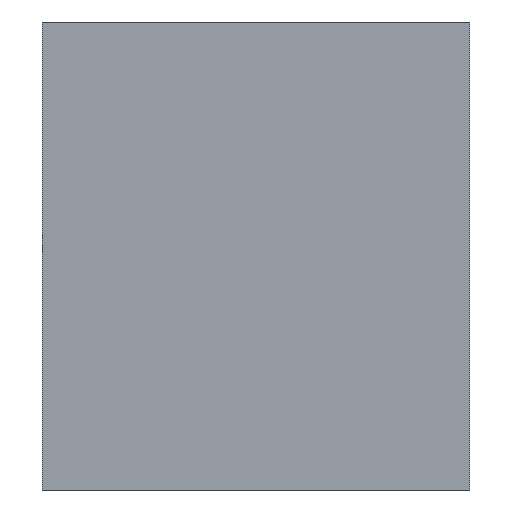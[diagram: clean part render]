
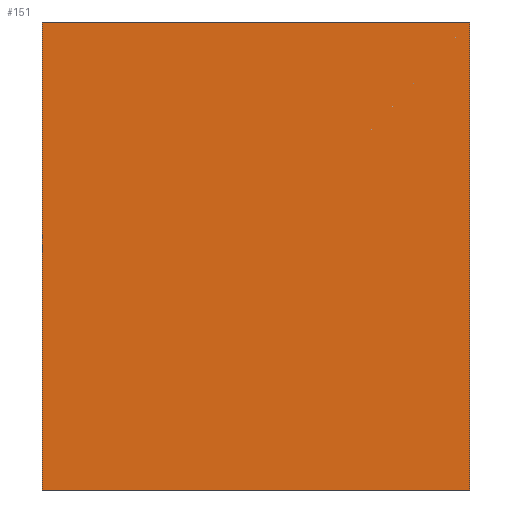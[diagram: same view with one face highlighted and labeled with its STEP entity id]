
A CAD part, front view. The second image highlights one B-rep face of the part: STEP entity #151.
In plain terms, the highlighted planar face has unit normal (0, -1, 0).
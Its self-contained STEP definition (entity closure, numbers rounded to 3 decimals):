
#107=PLANE('',#626);
#121=FACE_OUTER_BOUND('',#299,.T.);
#123=LINE('',#880,#135);
#124=LINE('',#883,#136);
#125=LINE('',#885,#137);
#126=LINE('',#887,#138);
#135=VECTOR('',#717,1.);
#136=VECTOR('',#718,1.);
#137=VECTOR('',#719,1.);
#138=VECTOR('',#720,1.);
#151=ADVANCED_FACE('',(#121),#107,.F.);
#299=EDGE_LOOP('',(#381,#382,#383,#384));
#381=ORIENTED_EDGE('',*,*,#533,.T.);
#382=ORIENTED_EDGE('',*,*,#534,.F.);
#383=ORIENTED_EDGE('',*,*,#535,.F.);
#384=ORIENTED_EDGE('',*,*,#536,.T.);
#481=VERTEX_POINT('',#881);
#482=VERTEX_POINT('',#882);
#483=VERTEX_POINT('',#884);
#484=VERTEX_POINT('',#886);
#533=EDGE_CURVE('',#481,#482,#123,.T.);
#534=EDGE_CURVE('',#483,#482,#124,.T.);
#535=EDGE_CURVE('',#484,#483,#125,.T.);
#536=EDGE_CURVE('',#484,#481,#126,.T.);
#626=AXIS2_PLACEMENT_3D('',#888,#721,#722);
#717=DIRECTION('',(0.,0.,1.));
#718=DIRECTION('',(1.,0.,0.));
#719=DIRECTION('',(0.,0.,1.));
#720=DIRECTION('',(1.,0.,0.));
#721=DIRECTION('',(0.,1.,0.));
#722=DIRECTION('',(0.,0.,1.));
#880=CARTESIAN_POINT('',(0.,-55.,-46.));
#881=CARTESIAN_POINT('',(0.,-55.,-46.));
#882=CARTESIAN_POINT('',(0.,-55.,46.));
#883=CARTESIAN_POINT('',(-84.,-55.,46.));
#884=CARTESIAN_POINT('',(-84.,-55.,46.));
#885=CARTESIAN_POINT('',(-84.,-55.,-46.));
#886=CARTESIAN_POINT('',(-84.,-55.,-46.));
#887=CARTESIAN_POINT('',(-84.,-55.,-46.));
#888=CARTESIAN_POINT('',(-84.,-55.,-46.));
